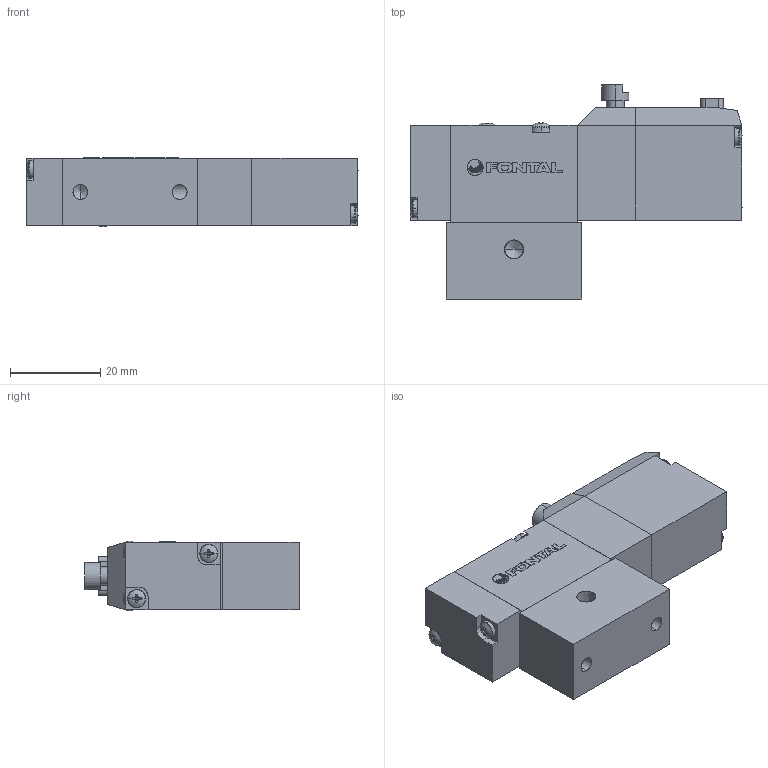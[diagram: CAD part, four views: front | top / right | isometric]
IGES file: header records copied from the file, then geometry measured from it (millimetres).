
Start section: SolidWorks IGES file using analytic representation for surfaces
Global section: file name: D:\Custom\3D繪製\PC\PCL5\PCL245#-M5-#-L-#.IGS,1; native system: 5HSolidWorks 2014; preprocessor: SolidWorks 2014; author: Chieh_Lu; date: 150916.143156; units: millimetre
Bounding box: 73.64 x 47.5 x 15.4 mm (x, y, z)
Surface area: 13863.7 mm2 (no closed solid volume)
Topology: 0 solids, 0 shells, 489 faces, 4482 edges, 4456 vertices
Faces by surface type: bspline 298, revolution 191
